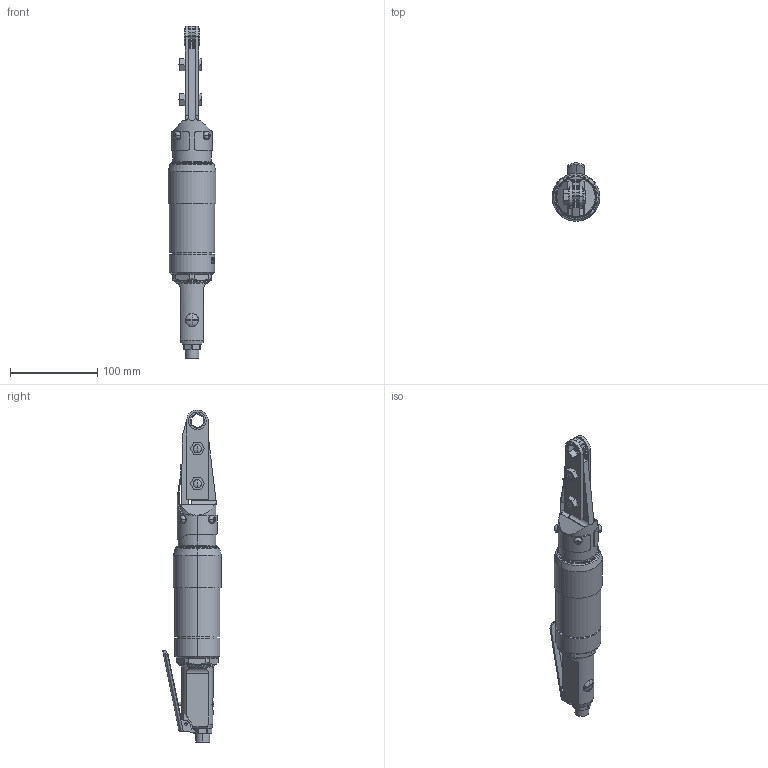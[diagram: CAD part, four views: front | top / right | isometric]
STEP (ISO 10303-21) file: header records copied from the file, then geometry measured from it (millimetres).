
FILE_DESCRIPTION (( 'STEP AP203' ), '1' );
FILE_NAME ('URW-9N.STEP', '2006-02-14T01:04:40', ( '' ), ( '' ), 'SwSTEP 2.0', 'SolidWorks 2004073', '' );
FILE_SCHEMA (( 'CONFIG_CONTROL_DESIGN' ));
Length unit declared in the file: millimetre
Products named in the file (7): 2126561_蹬怮椔; 2013811_蹬怮椔; URW-9N; 2120255_蹬怮椔; 2120145_蹬怮椔; 0201071_蹬怮椔; 9703240_蹬怮椔
Assembly tree (6 placements, depth 2):
  URW-9N
    2120145_蹬怮椔
    2013811_蹬怮椔
    9703240_蹬怮椔
    0201071_蹬怮椔
    2120255_蹬怮椔
    2126561_蹬怮椔
Bounding box: 55 x 67.18 x 380.5 mm (x, y, z)
Volume: 480089.6 mm3; surface area: 71887.3 mm2
Topology: 6 solids, 6 shells, 613 faces, 1613 edges, 1055 vertices
Faces by surface type: plane 340, cylinder 178, bspline 46, cone 28, torus 15, sphere 6
Entity records: 23991 total; most frequent: CARTESIAN_POINT 8558, ORIENTED_EDGE 3222, DIRECTION 2854, EDGE_CURVE 1611, VERTEX_POINT 1055, AXIS2_PLACEMENT_3D 995, VECTOR 864, LINE 864
